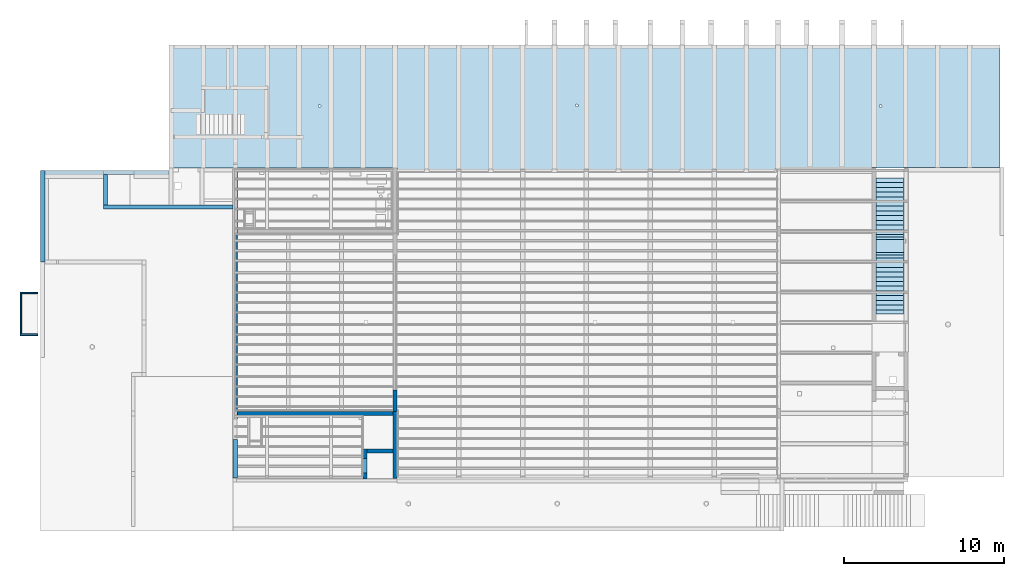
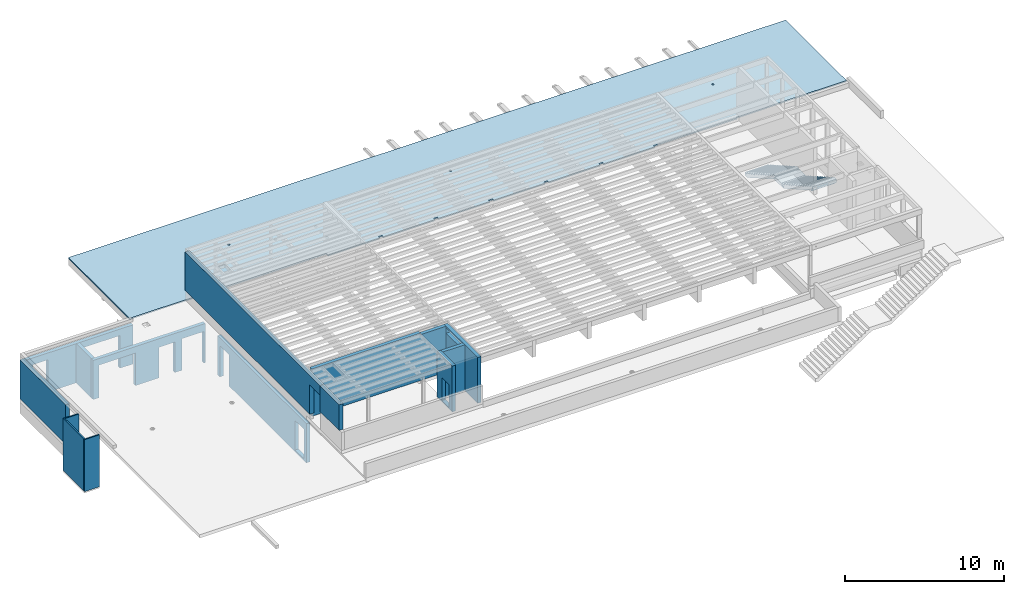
# One storey, part 10 of 14: 15 walls, 3 slabs, 24 openings.
"""IFC2X3 building model written with IfcOpenShell, lengths in metres."""

from ifc_helpers import new_model, entity, si_unit, converted_unit, direction, frame, frame_2d, origin, origin_2d_with_axis, place, context, subcontext, project, spatial, polyline, rectangle, circle, outline, extrude, clip, bounded_halfspace, material, layer, layer_set, layer_usage, type_object, element, save


model = new_model("IFC2X3")

# Units and contexts
model_context = context("Model", 3, precision=1e-05, world=frame((30.086303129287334, 2.687674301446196, 462.0)), true_north=direction((0.19008937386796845, 0.9817667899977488)))
body_context = subcontext(model_context, "Body", "Model", "MODEL_VIEW")
ifc_project = project(units=[si_unit("LENGTHUNIT", "METRE"), si_unit("AREAUNIT", "SQUARE_METRE"), converted_unit("PLANEANGLEUNIT", "DEGREE", entity("IfcPlaneAngleMeasure", 0.017453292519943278), si_unit("PLANEANGLEUNIT", "RADIAN"), dimensions=[0, 0, 0, 0, 0, 0, 0]), si_unit("VOLUMEUNIT", "CUBIC_METRE")], contexts=[model_context])

# Site, building, storey
site_placement = place(None, origin())
site = spatial("IfcSite", under=ifc_project, at=site_placement, Name="Default", CompositionType="ELEMENT")
building_placement = place(site_placement, origin())
building = spatial("IfcBuilding", under=site, at=building_placement, CompositionType="ELEMENT")
storey_placement = place(building_placement, origin())
storey = spatial("IfcBuildingStorey", under=building, at=storey_placement, Name="FB_E00_OKFB", CompositionType="ELEMENT", Elevation=0.0)

# Slab, openings
ifc_material_1 = material(Name="WS_CONCRETE_REINFORCED")
ifc_layer_1 = layer(ifc_material_1, 0.24999999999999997)
ifc_layer_set_1 = layer_set([ifc_layer_1], Name="Geschossdecke:WS_SLB_CON_250")
ifc_layer_usage_1 = layer_usage(ifc_layer_set_1, "AXIS3", "POSITIVE", 0.0)
slab_type_1 = type_object("IfcSlabType", Name="Geschossdecke:WS_SLB_CON_250", PredefinedType="FLOOR", material=ifc_layer_set_1)
slab_1_placement = place(storey_placement, frame((90.23033735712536, -6.602648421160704, 1.8349999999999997)))
slab_1 = element("IfcSlab", 1, at=slab_1_placement, inside=storey, type_object=slab_type_1, material=ifc_layer_usage_1, Name="Geschossdecke:WS_SLB_CON_250", ObjectType="Geschossdecke:WS_SLB_CON_250", PredefinedType="FLOOR", context=body_context, shape_type="SweptSolid", body=[
    extrude(rectangle(XDim=1.1100000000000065, YDim=1.750001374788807, at=frame_2d((0.0, 0.0), x_axis=(0.0, -1.0))), frame((0.8750006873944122, 0.5550000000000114, 0.25), z_axis=(0.0, 0.0, -1.0), x_axis=(-1.0, 0.0, 0.0)), (0.0, 0.0, 1.0), 0.25),
])
opening_1_placement = place(slab_1_placement, origin())
element("IfcOpeningElement", 2, at=opening_1_placement, cuts=slab_1, Name="Geschossdecke:WS_SLB_CON_250", ObjectType="Opening", context=body_context, shape_type="SweptSolid", body=[
    extrude(rectangle(XDim=0.13999999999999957, YDim=1.7500013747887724, at=frame_2d((-5.412337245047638e-16, 8.659739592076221e-15), x_axis=(1.0, 0.0))), frame((0.8750006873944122, 0.07000000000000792, 0.12999999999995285), z_axis=(0.0, 0.0, 1.0), x_axis=(0.0, 1.0, 0.0)), (0.0, 0.0, 1.0), 0.1200000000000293),
])
opening_2_placement = place(slab_1_placement, origin())
element("IfcOpeningElement", 3, at=opening_2_placement, cuts=slab_1, Name="Geschossdecke:WS_SLB_CON_250", ObjectType="Opening", context=body_context, shape_type="SweptSolid", body=[
    extrude(rectangle(XDim=0.13999999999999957, YDim=1.7500013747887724, at=frame_2d((5.412337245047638e-16, 8.659739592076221e-15), x_axis=(1.0, 0.0))), frame((0.8750006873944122, 1.040000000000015, 0.12999999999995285), z_axis=(0.0, 0.0, 1.0), x_axis=(0.0, 1.0, 0.0)), (0.0, 0.0, 1.0), 0.1200000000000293),
])

ifc_material_2 = material(Name="WS_TIMBER_GLT_0°")
ifc_layer_2 = layer(ifc_material_2, 0.1)
ifc_layer_set_2 = layer_set([ifc_layer_2], Name="Geschossdecke:WS_SLB_TIM_100")
ifc_layer_usage_2 = layer_usage(ifc_layer_set_2, "AXIS3", "POSITIVE", 0.0)
slab_type_2 = type_object("IfcSlabType", Name="Geschossdecke:WS_SLB_TIM_100", PredefinedType="FLOOR", material=ifc_layer_set_2)
slab_2_placement = place(storey_placement, frame((45.95533862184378, -1.3946477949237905, 3.9349999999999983)))
slab_2 = element("IfcSlab", 4, at=slab_2_placement, inside=storey, type_object=slab_type_2, material=ifc_layer_usage_2, Name="Geschossdecke:WS_SLB_TIM_100", ObjectType="Geschossdecke:WS_SLB_TIM_100", PredefinedType="FLOOR", context=body_context, shape_type="SweptSolid", body=[
    extrude(outline(polyline([(-26.02499964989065, 3.9624998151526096), (-26.02499964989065, -3.697507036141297), (-20.25000046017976, -3.697507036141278), (-20.25000046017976, -3.7225070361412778), (-17.999999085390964, -3.72250703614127), (-17.999999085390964, -3.8024598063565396), (-11.945000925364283, -3.8025128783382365), (-11.945000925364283, -3.9624998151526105), (-8.265000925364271, -3.9624998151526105), (-8.265000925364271, -3.802455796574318), (-7.9850009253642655, -3.802455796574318), (-7.9850009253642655, -3.9624543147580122), (-4.265000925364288, -3.9624543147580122), (-4.265000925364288, -3.802455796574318), (-3.9850009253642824, -3.802455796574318), (-3.9850009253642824, -3.9624543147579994), (-0.2650009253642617, -3.9624543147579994), (-0.2650009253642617, -3.802455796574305), (0.014999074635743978, -3.802455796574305), (0.014999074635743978, -3.9624543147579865), (3.7349990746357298, -3.9624543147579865), (3.7349990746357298, -3.802455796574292), (4.014999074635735, -3.802455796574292), (4.014999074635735, -3.962454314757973), (7.734999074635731, -3.962454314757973), (7.734999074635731, -3.802455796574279), (8.014999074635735, -3.802455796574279), (8.014999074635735, -3.9624543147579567), (11.750000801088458, -3.9624543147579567), (11.750000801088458, -3.7374998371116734), (26.024999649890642, -3.7374998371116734), (26.024999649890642, 3.9624998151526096), (-26.02499964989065, 3.9624998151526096)])), frame((26.024999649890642, 3.9624998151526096, 0.10000000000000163), z_axis=(0.0, 0.0, -1.0), x_axis=(-1.0, 0.0, 0.0)), (0.0, 0.0, 1.0), 0.1),
])
opening_3_placement = place(slab_2_placement, origin())
element("IfcOpeningElement", 5, at=opening_3_placement, cuts=slab_2, Name="Geschossdecke:WS_SLB_TIM_100", ObjectType="Opening", context=body_context, shape_type="SweptSolid", body=[
    extrude(circle(Radius=0.08, at=frame_2d((1.0609038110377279e-30, -1.7325874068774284e-14), x_axis=(1.0, 0.0))), frame((9.435058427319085, 4.107658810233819, 0.0), z_axis=(0.0, 0.0, 1.0), x_axis=(0.0, 1.0, 0.0)), (0.0, 0.0, 1.0), 0.1),
])
opening_4_placement = place(slab_2_placement, origin())
element("IfcOpeningElement", 6, at=opening_4_placement, cuts=slab_2, Name="Geschossdecke:WS_SLB_TIM_100", ObjectType="Opening", context=body_context, shape_type="SweptSolid", body=[
    extrude(circle(Radius=0.08, at=frame_2d((1.0609038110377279e-30, -1.7325874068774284e-14), x_axis=(1.0, 0.0))), frame((25.542080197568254, 4.147310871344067, 0.0), z_axis=(0.0, 0.0, 1.0), x_axis=(0.0, 1.0, 0.0)), (0.0, 0.0, 1.0), 0.1),
])
opening_5_placement = place(slab_2_placement, origin())
element("IfcOpeningElement", 7, at=opening_5_placement, cuts=slab_2, Name="Geschossdecke:WS_SLB_TIM_100", ObjectType="Opening", context=body_context, shape_type="SweptSolid", body=[
    extrude(circle(Radius=0.08, at=frame_2d((2.1218076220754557e-30, -3.465174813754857e-14), x_axis=(1.0, 0.0))), frame((44.56615440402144, 4.107650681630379, 0.0), z_axis=(0.0, 0.0, 1.0), x_axis=(0.0, 1.0, 0.0)), (0.0, 0.0, 1.0), 0.1),
])

# Slab
ifc_material_3 = material(Name="WS_CONCRETE_REINFORCED_PRECAST")
slab_type_3 = type_object("IfcSlabType", Name="Foyertreppe:Foyertreppe", PredefinedType="FLOOR", material=ifc_material_3)
slab_3_placement = place(storey_placement, origin())
element("IfcSlab", 8, at=slab_3_placement, inside=storey, type_object=slab_type_3, Name="Foyertreppe:Foyertreppe", ObjectType="Foyertreppe:Foyertreppe", PredefinedType="FLOOR", context=body_context, shape_type="SweptSolid", body=[
    extrude(outline(polyline([(-1.011980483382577, -1.8548969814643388), (-0.8439804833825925, -1.8548969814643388), (-0.8439804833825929, -1.7148969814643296), (-0.690585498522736, -1.7148969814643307), (1.241019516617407, 1.6769094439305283), (1.241019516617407, 1.980103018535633), (1.0040195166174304, 1.980103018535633), (1.00401951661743, 1.685103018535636), (0.8360195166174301, 1.685103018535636), (0.8360195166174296, 1.3901030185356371), (0.6680195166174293, 1.3901030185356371), (0.6680195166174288, 1.0951030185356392), (0.500019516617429, 1.0951030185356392), (0.5000195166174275, 0.8001030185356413), (0.33201951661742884, 0.8001030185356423), (0.3320195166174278, 0.5051030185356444), (0.1640195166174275, 0.5051030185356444), (0.16401951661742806, 0.2101030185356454), (-0.0039804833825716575, 0.21010301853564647), (-0.00398048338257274, -0.08489698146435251), (-0.17198048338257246, -0.08489698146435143), (-0.17198048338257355, -0.3798969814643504), (-0.33998048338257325, -0.37989698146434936), (-0.3399804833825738, -0.6748969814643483), (-0.5079804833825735, -0.6748969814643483), (-0.5079804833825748, -0.9698969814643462), (-0.6759804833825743, -0.9698969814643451), (-0.6759804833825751, -1.2648969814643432), (-0.843980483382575, -1.2648969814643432), (-0.8439804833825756, -1.559896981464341), (-1.0119804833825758, -1.559896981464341), (-1.011980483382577, -1.8548969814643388)])), frame((90.24533735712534, -3.767751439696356, 1.1310195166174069), z_axis=(1.0, 0.0, 0.0), x_axis=(0.0, 0.0, -1.0)), (0.0, 0.0, 1.0), 1.7200013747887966),
    extrude(outline(polyline([(1.7278423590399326, -1.2440588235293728), (1.7977057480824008, -1.2440588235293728), (1.7977057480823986, -1.1040588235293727), (1.937705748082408, -1.1040588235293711), (1.9377057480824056, -0.9360588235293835), (1.6107057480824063, -0.9360588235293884), (1.6107057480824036, -0.7685588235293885), (1.3157057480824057, -0.7685588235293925), (1.3157057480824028, -0.6010588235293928), (1.0207057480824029, -0.6010588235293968), (1.0207057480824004, -0.4335588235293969), (0.7257057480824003, -0.4335588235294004), (0.7257057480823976, -0.2660588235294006), (0.4307057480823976, -0.2660588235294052), (0.43070574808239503, -0.09855882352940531), (0.13570574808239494, -0.09855882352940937), (0.13570574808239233, 0.06894117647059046), (-0.15929425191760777, 0.06894117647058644), (-0.15929425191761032, 0.23644117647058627), (-0.4542942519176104, 0.23644117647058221), (-0.454294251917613, 0.40394117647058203), (-0.749294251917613, 0.403941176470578), (-0.7492942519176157, 0.5714411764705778), (-1.0442942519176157, 0.5714411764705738), (-1.0442942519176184, 0.7389411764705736), (-1.3392942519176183, 0.7389411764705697), (-1.339294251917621, 0.9064411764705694), (-1.6342942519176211, 0.906441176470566), (-1.6342942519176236, 1.0739411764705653), (-1.894294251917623, 1.0739411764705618), (-1.894294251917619, 0.7959411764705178), (-1.7542942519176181, 0.7959411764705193), (-1.7542942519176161, 0.6559411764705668), (-1.618426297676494, 0.6559411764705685), (1.7278423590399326, -1.2440588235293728)])), frame((90.24533735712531, -8.410354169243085, 3.0790588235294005), z_axis=(1.0, 0.0, 0.0), x_axis=(0.0, 1.0, 0.0)), (0.0, 0.0, 1.0), 1.7200013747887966),
])

# Wall, openings
ifc_layer_3 = layer(ifc_material_1, 0.24999999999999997)
ifc_layer_set_3 = layer_set([ifc_layer_3], Name="Basiswand:WS_WAL_CON_250")
ifc_layer_usage_3 = layer_usage(ifc_layer_set_3, "AXIS2", "NEGATIVE", 0.12499999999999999)
wall_type_1 = type_object("IfcWallType", Name="Basiswand:WS_WAL_CON_250", PredefinedType="STANDARD", material=ifc_layer_set_3)
wall_1_placement = place(storey_placement, frame((49.98033743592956, -3.5946084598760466, 0.7799999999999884), z_axis=(0.0, 0.0, 1.0), x_axis=(-1.0, 0.0, 0.0)))
wall_1 = element("IfcWallStandardCase", 9, at=wall_1_placement, inside=storey, type_object=wall_type_1, material=ifc_layer_usage_3, Name="Basiswand:WS_WAL_CON_250", ObjectType="Basiswand:WS_WAL_CON_250", context=body_context, shape_type="SweptSolid", body=[
    extrude(rectangle(XDim=8.139991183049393, YDim=0.25, at=frame_2d((4.069995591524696, -4.0245584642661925e-16), x_axis=(1.0, 0.0))), origin(), (0.0, 0.0, 1.0), 3.005000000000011),
])
opening_6_placement = place(wall_1_placement, frame((49.98033743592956, -3.5946084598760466, -0.7799999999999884), z_axis=(0.0, 0.0, 1.0), x_axis=(-1.0, 0.0, 0.0)))
element("IfcOpeningElement", 10, at=opening_6_placement, cuts=wall_1, Name="Basiswand:WS_WAL_CON_250", ObjectType="Opening", context=body_context, shape_type="SweptSolid", body=[
    extrude(rectangle(XDim=2.4999999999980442, YDim=2.660000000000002, at=frame_2d((0.0, 2.220446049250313e-16), x_axis=(0.0, 1.0))), frame((43.58034625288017, -1.9456084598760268, 2.029999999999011), z_axis=(0.0, -1.0, 0.0), x_axis=(1.0, 0.0, 0.0)), (0.0, 0.0, 1.0), 3.048),
])
opening_7_placement = place(wall_1_placement, frame((49.98033743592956, -3.5946084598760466, -0.7799999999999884), z_axis=(0.0, 0.0, 1.0), x_axis=(-1.0, 0.0, 0.0)))
element("IfcOpeningElement", 11, at=opening_7_placement, cuts=wall_1, Name="Basiswand:WS_WAL_CON_250", ObjectType="Opening", context=body_context, shape_type="SweptSolid", body=[
    extrude(rectangle(XDim=2.339999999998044, YDim=1.1400000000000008, at=frame_2d((0.0, -1.1102230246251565e-16), x_axis=(0.0, 1.0))), frame((47.195337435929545, -1.9456084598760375, 1.949999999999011), z_axis=(0.0, -1.0, 0.0), x_axis=(1.0, 0.0, 0.0)), (0.0, 0.0, 1.0), 3.048),
])
opening_8_placement = place(wall_1_placement, frame((49.98033743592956, -3.5946084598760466, -4.580000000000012), z_axis=(0.0, 0.0, 1.0), x_axis=(-1.0, 0.0, 0.0)))
element("IfcOpeningElement", 12, at=opening_8_placement, cuts=wall_1, Name="Basiswand:WS_WAL_CON_250", ObjectType="Opening", context=body_context, shape_type="SweptSolid", body=[
    extrude(rectangle(XDim=2.419999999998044, YDim=1.6, at=frame_2d((0.0, 0.0), x_axis=(0.0, 1.0))), frame((49.08033743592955, -1.9456084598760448, 5.7900000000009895), z_axis=(0.0, -1.0, 0.0), x_axis=(1.0, 0.0, 0.0)), (0.0, 0.0, 1.0), 3.048),
])

# Walls
ifc_layer_usage_4 = layer_usage(ifc_layer_set_3, "AXIS2", "NEGATIVE", 0.12499999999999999)
wall_2_placement = place(storey_placement, frame((41.96534625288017, -3.469608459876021, 0.7799999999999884), z_axis=(0.0, 0.0, 1.0), x_axis=(0.0, 1.0, 0.0)))
element("IfcWallStandardCase", 13, at=wall_2_placement, inside=storey, type_object=wall_type_1, material=ifc_layer_usage_4, Name="Basiswand:WS_WAL_CON_250", ObjectType="Basiswand:WS_WAL_CON_250", context=body_context, shape_type="SweptSolid", body=[
    extrude(rectangle(XDim=1.889960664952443, YDim=0.24999999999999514, at=frame_2d((0.9449803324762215, 0.0), x_axis=(-1.0, 0.0))), origin(), (0.0, 0.0, 1.0), 3.005000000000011),
])
ifc_layer_usage_5 = layer_usage(ifc_layer_set_3, "AXIS2", "NEGATIVE", 0.12499999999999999)
wall_3_placement = place(storey_placement, frame((59.98033735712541, -16.534648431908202, 4.4), z_axis=(0.0, 0.0, 1.0), x_axis=(-1.0, 0.0, 0.0)))
element("IfcWallStandardCase", 14, at=wall_3_placement, inside=storey, type_object=wall_type_1, material=ifc_layer_usage_5, Name="Basiswand:WS_WAL_CON_250", ObjectType="Basiswand:WS_WAL_CON_250", context=body_context, shape_type="Clipping", body=[
    clip(clip(extrude(rectangle(XDim=9.735000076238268, YDim=0.24999999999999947, at=frame_2d((4.867500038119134, 4.926614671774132e-16), x_axis=(-1.0, 0.0))), origin(), (0.0, 0.0, 1.0), 3.6399999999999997), bounded_halfspace(frame((1.85999993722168, -0.12499999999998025, 3.515000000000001), z_axis=(0.0, 0.0, -1.0), x_axis=(0.0, 1.0, 0.0)), True, frame((1.85999993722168, -0.12499999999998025, 3.515000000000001), z_axis=(0.0, 0.0, -1.0), x_axis=(0.0, 1.0, 0.0)), polyline([(0.0, 0.0), (0.0, -1.8599999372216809), (0.24999999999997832, -1.859999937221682), (0.24999999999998, 0.0), (0.0, 0.0)]))), bounded_halfspace(frame((1.8599999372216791, 0.12499999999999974, 3.515000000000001), z_axis=(1.0, 0.0, 0.0), x_axis=(0.0, 0.0, 1.0)), True, frame((1.8599999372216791, 0.12499999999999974, 3.515000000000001), z_axis=(1.0, 0.0, 0.0), x_axis=(0.0, 0.0, 1.0)), polyline([(0.0, 0.0), (0.03809999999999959, 0.0), (0.03809999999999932, 0.07619999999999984), (0.0, 0.07619999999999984), (0.0, 0.0)]))),
])
ifc_layer_usage_6 = layer_usage(ifc_layer_set_3, "AXIS2", "NEGATIVE", 0.12499999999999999)
wall_4_placement = place(storey_placement, frame((60.105337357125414, -15.069648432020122, 4.1499999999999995), z_axis=(0.0, 0.0, 1.0), x_axis=(0.0, -1.0, 0.0)))
element("IfcWallStandardCase", 15, at=wall_4_placement, inside=storey, type_object=wall_type_1, material=ifc_layer_usage_6, Name="Basiswand:WS_WAL_CON_250", ObjectType="Basiswand:WS_WAL_CON_250", context=body_context, shape_type="SweptSolid", body=[
    extrude(rectangle(XDim=1.3399999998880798, YDim=0.24999999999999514, at=frame_2d((0.6699999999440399, 1.0755285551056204e-15), x_axis=(-1.0, 0.0))), origin(), (0.0, 0.0, 1.0), 2.83),
])

# Wall, opening
ifc_layer_usage_7 = layer_usage(ifc_layer_set_3, "AXIS2", "NEGATIVE", 0.12499999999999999)
wall_5_placement = place(storey_placement, frame((58.24533741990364, -18.75464898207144, 4.3999999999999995), z_axis=(0.0, 0.0, 1.0), x_axis=(0.0, -1.0, 0.0)))
wall_5 = element("IfcWallStandardCase", 16, at=wall_5_placement, inside=storey, type_object=wall_type_1, material=ifc_layer_usage_7, Name="Basiswand:WS_WAL_CON_250", ObjectType="Basiswand:WS_WAL_CON_250", context=body_context, shape_type="SweptSolid", body=[
    extrude(rectangle(XDim=1.8849109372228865, YDim=0.25000000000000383, at=frame_2d((0.9424554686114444, -2.282896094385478e-15), x_axis=(-1.0, 0.0))), origin(), (0.0, 0.0, 1.0), 3.515),
])
opening_9_placement = place(wall_5_placement, origin())
element("IfcOpeningElement", 17, at=opening_9_placement, cuts=wall_5, Name="Basiswand:WS_WAL_CON_250", ObjectType="Opening", context=body_context, shape_type="SweptSolid", body=[
    extrude(rectangle(XDim=1.7499999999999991, YDim=0.899999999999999, at=frame_2d((2.7755575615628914e-16, 0.0), x_axis=(1.0, 0.0))), frame((1.0599999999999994, -0.12499999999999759, 0.9749999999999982), z_axis=(0.0, 1.0, 0.0), x_axis=(0.0, 0.0, -1.0)), (0.0, 0.0, 1.0), 0.24999999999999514),
])

ifc_layer_usage_8 = layer_usage(ifc_layer_set_3, "AXIS2", "NEGATIVE", 0.12499999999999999)
wall_6_placement = place(storey_placement, frame((60.105337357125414, -16.409648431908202, 4.4), z_axis=(0.0, 0.0, 1.0), x_axis=(0.0, -1.0, 0.0)))
wall_6 = element("IfcWallStandardCase", 18, at=wall_6_placement, inside=storey, type_object=wall_type_1, material=ifc_layer_usage_8, Name="Basiswand:WS_WAL_CON_250", ObjectType="Basiswand:WS_WAL_CON_250", context=body_context, shape_type="SweptSolid", body=[
    extrude(rectangle(XDim=4.2149114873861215, YDim=0.2500000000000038, at=frame_2d((2.1074557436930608, -4.253541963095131e-15), x_axis=(-1.0, 0.0))), origin(), (0.0, 0.0, 1.0), 3.515),
])
opening_10_placement = place(wall_6_placement, origin())
element("IfcOpeningElement", 19, at=opening_10_placement, cuts=wall_6, Name="Basiswand:WS_WAL_CON_250", ObjectType="Opening", context=body_context, shape_type="SweptSolid", body=[
    extrude(rectangle(XDim=0.39999999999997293, YDim=2.094999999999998, at=frame_2d((5.412337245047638e-16, 0.0), x_axis=(1.0, 0.0))), frame((1.297499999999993, -0.12499999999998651, 3.1800000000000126), z_axis=(0.0, 1.0, 0.0), x_axis=(0.0, 0.0, -1.0)), (0.0, 0.0, 1.0), 0.24999999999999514),
])

# Wall, openings
ifc_layer_usage_9 = layer_usage(ifc_layer_set_3, "AXIS2", "POSITIVE", -0.12499999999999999)
wall_7_placement = place(storey_placement, frame((50.105337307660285, -16.409648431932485, 0.7799999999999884), z_axis=(0.0, 0.0, 1.0), x_axis=(0.0, 1.0, 0.0)))
wall_7 = element("IfcWallStandardCase", 20, at=wall_7_placement, inside=storey, type_object=wall_type_1, material=ifc_layer_usage_9, Name="Basiswand:WS_WAL_CON_250", ObjectType="Basiswand:WS_WAL_CON_250", context=body_context, shape_type="SweptSolid", body=[
    extrude(rectangle(XDim=11.149999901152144, YDim=0.25000000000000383, at=frame_2d((5.57499995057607, -1.915134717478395e-15), x_axis=(1.0, 0.0))), origin(), (0.0, 0.0, 1.0), 3.005000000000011),
])
opening_11_placement = place(wall_7_placement, origin())
element("IfcOpeningElement", 21, at=opening_11_placement, cuts=wall_7, Name="Basiswand:WS_WAL_CON_250", ObjectType="Opening", context=body_context, shape_type="SweptSolid", body=[
    extrude(rectangle(XDim=0.8799999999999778, YDim=0.899999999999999, at=frame_2d((8.326672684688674e-17, 0.0), x_axis=(1.0, 0.0))), frame((-6.59434350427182, -0.12500004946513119, -0.46000000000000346), z_axis=(0.0, 1.0, 0.0), x_axis=(0.0, 0.0, -1.0)), (0.0, 0.0, 1.0), 0.24999999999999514),
])
opening_12_placement = place(wall_7_placement, origin())
element("IfcOpeningElement", 22, at=opening_12_placement, cuts=wall_7, Name="Basiswand:WS_WAL_CON_250", ObjectType="Opening", context=body_context, shape_type="SweptSolid", body=[
    extrude(rectangle(XDim=0.879999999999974, YDim=0.7000000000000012, at=origin_2d_with_axis()), frame((-5.644344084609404, -0.12500004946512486, -0.46000000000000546), z_axis=(0.0, 1.0, 0.0), x_axis=(0.0, 0.0, -1.0)), (0.0, 0.0, 1.0), 0.24999999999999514),
])
opening_13_placement = place(wall_7_placement, origin())
element("IfcOpeningElement", 23, at=opening_13_placement, cuts=wall_7, Name="Basiswand:WS_WAL_CON_250", ObjectType="Opening", context=body_context, shape_type="SweptSolid", body=[
    extrude(rectangle(XDim=0.8799999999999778, YDim=0.899999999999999, at=frame_2d((8.326672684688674e-17, 0.0), x_axis=(1.0, 0.0))), frame((-4.694344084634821, -0.12500004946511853, -0.46000000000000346), z_axis=(0.0, 1.0, 0.0), x_axis=(0.0, 0.0, -1.0)), (0.0, 0.0, 1.0), 0.24999999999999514),
])
opening_14_placement = place(wall_7_placement, origin())
element("IfcOpeningElement", 24, at=opening_14_placement, cuts=wall_7, Name="Basiswand:WS_WAL_CON_250", ObjectType="Opening", context=body_context, shape_type="SweptSolid", body=[
    extrude(rectangle(XDim=0.8799999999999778, YDim=0.899999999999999, at=frame_2d((5.551115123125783e-17, 0.0), x_axis=(1.0, 0.0))), frame((-3.1843435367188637, -0.1250000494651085, -0.45999999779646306), z_axis=(0.0, 1.0, 0.0), x_axis=(0.0, 0.0, -1.0)), (0.0, 0.0, 1.0), 0.24999999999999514),
])
opening_15_placement = place(wall_7_placement, origin())
element("IfcOpeningElement", 25, at=opening_15_placement, cuts=wall_7, Name="Basiswand:WS_WAL_CON_250", ObjectType="Opening", context=body_context, shape_type="SweptSolid", body=[
    extrude(rectangle(XDim=0.8799999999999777, YDim=0.7999999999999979, at=frame_2d((0.0, -1.0824674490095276e-15), x_axis=(1.0, 0.0))), frame((-1.9743435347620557, -0.12500004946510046, -0.4599999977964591), z_axis=(0.0, 1.0, 0.0), x_axis=(0.0, 0.0, -1.0)), (0.0, 0.0, 1.0), 0.24999999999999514),
])
opening_16_placement = place(wall_7_placement, origin())
element("IfcOpeningElement", 26, at=opening_16_placement, cuts=wall_7, Name="Basiswand:WS_WAL_CON_250", ObjectType="Opening", context=body_context, shape_type="SweptSolid", body=[
    extrude(rectangle(XDim=0.8799999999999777, YDim=0.7999999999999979, at=frame_2d((0.0, -1.0824674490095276e-15), x_axis=(1.0, 0.0))), frame((-0.9093435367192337, -0.12500004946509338, -0.45999999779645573), z_axis=(0.0, 1.0, 0.0), x_axis=(0.0, 0.0, -1.0)), (0.0, 0.0, 1.0), 0.24999999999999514),
])
opening_17_placement = place(wall_7_placement, origin())
element("IfcOpeningElement", 27, at=opening_17_placement, cuts=wall_7, Name="Basiswand:WS_WAL_CON_250", ObjectType="Opening", context=body_context, shape_type="SweptSolid", body=[
    extrude(rectangle(XDim=0.8000000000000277, YDim=0.3000000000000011, at=frame_2d((2.7755575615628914e-16, 2.1649348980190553e-15), x_axis=(1.0, 0.0))), frame((-7.055006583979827, -0.12500004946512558, 2.6049999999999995), z_axis=(0.0, 1.0, 0.0), x_axis=(0.0, 0.0, -1.0)), (0.0, 0.0, 1.0), 0.24999999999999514),
])
opening_18_placement = place(wall_7_placement, origin())
element("IfcOpeningElement", 28, at=opening_18_placement, cuts=wall_7, Name="Basiswand:WS_WAL_CON_250", ObjectType="Opening", context=body_context, shape_type="SweptSolid", body=[
    extrude(rectangle(XDim=0.2, YDim=0.6993435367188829, at=frame_2d((2.706168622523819e-16, 2.1649348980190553e-15), x_axis=(1.0, 0.0))), frame((-0.5996717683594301, -0.12500004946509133, 2.9050000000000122), z_axis=(0.0, 1.0, 0.0), x_axis=(0.0, 0.0, -1.0)), (0.0, 0.0, 1.0), 0.24999999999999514),
])
opening_19_placement = place(wall_7_placement, frame((16.409648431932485, 50.105337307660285, -0.7799999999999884), z_axis=(0.0, 0.0, 1.0), x_axis=(0.0, -1.0, 0.0)))
element("IfcOpeningElement", 29, at=opening_19_placement, cuts=wall_7, Name="Basiswand:WS_WAL_CON_250", ObjectType="Opening", context=body_context, shape_type="SweptSolid", body=[
    extrude(rectangle(XDim=2.384999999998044, YDim=1.1449999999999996, at=frame_2d((-1.1102230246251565e-16, 0.0), x_axis=(1.0, 0.0))), frame((51.50433730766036, -6.10964849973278, 1.9725000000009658), z_axis=(-1.0, 0.0, 0.0), x_axis=(0.0, 0.0, 1.0)), (0.0, 0.0, 1.0), 3.048),
])
opening_20_placement = place(wall_7_placement, frame((16.409648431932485, 50.105337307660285, -4.580000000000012), z_axis=(0.0, 0.0, 1.0), x_axis=(0.0, -1.0, 0.0)))
element("IfcOpeningElement", 30, at=opening_20_placement, cuts=wall_7, Name="Basiswand:WS_WAL_CON_250", ObjectType="Opening", context=body_context, shape_type="SweptSolid", body=[
    extrude(rectangle(XDim=2.264999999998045, YDim=1.1449999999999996, at=frame_2d((0.0, 0.0), x_axis=(0.0, 1.0))), frame((51.75433730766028, -15.559648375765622, 5.832499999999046), z_axis=(-1.0, 0.0, 0.0), x_axis=(0.0, -1.0, 0.0)), (0.0, 0.0, 1.0), 3.048),
])

# Wall
ifc_layer_usage_10 = layer_usage(ifc_layer_set_3, "AXIS2", "NEGATIVE", 0.12499999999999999)
wall_8_placement = place(storey_placement, frame((59.98033735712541, -18.879648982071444, 4.3999999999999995), z_axis=(0.0, 0.0, 1.0), x_axis=(-1.0, 0.0, 0.0)))
element("IfcWallStandardCase", 31, at=wall_8_placement, inside=storey, type_object=wall_type_1, material=ifc_layer_usage_10, Name="Basiswand:WS_WAL_CON_250", ObjectType="Basiswand:WS_WAL_CON_250", context=body_context, shape_type="Clipping", body=[
    clip(extrude(rectangle(XDim=1.6099999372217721, YDim=0.2499999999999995, at=frame_2d((0.8049999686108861, -1.5265566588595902e-16), x_axis=(-1.0, 0.0))), origin(), (0.0, 0.0, 1.0), 3.5150000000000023), bounded_halfspace(frame((0.0, -0.12499999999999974, 3.5150000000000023), z_axis=(0.0, 0.0, -1.0), x_axis=(0.0, 1.0, 0.0)), True, frame((0.0, -0.12499999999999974, 3.5150000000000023)), polyline([(0.0, 0.0), (1.6099999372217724, 0.0), (1.6099999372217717, 0.24999999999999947), (0.0, 0.24999999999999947), (0.0, 0.0)]))),
])

# Wall, openings
ifc_layer_usage_11 = layer_usage(ifc_layer_set_3, "AXIS2", "POSITIVE", -0.12499999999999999)
wall_9_placement = place(storey_placement, frame((38.20533792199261, -1.4546477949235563, 0.7799999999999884)))
wall_9 = element("IfcWallStandardCase", 32, at=wall_9_placement, inside=storey, type_object=wall_type_1, material=ifc_layer_usage_11, Name="Basiswand:WS_WAL_CON_250", ObjectType="Basiswand:WS_WAL_CON_250", context=body_context, shape_type="SweptSolid", body=[
    extrude(rectangle(XDim=7.750001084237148, YDim=0.25, at=frame_2d((3.875000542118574, -4.85722573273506e-17), x_axis=(-1.0, 0.0))), origin(), (0.0, 0.0, 1.0), 3.005000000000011),
])
opening_21_placement = place(wall_9_placement, frame((-38.20533792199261, 1.4546477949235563, -0.7799999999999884)))
element("IfcOpeningElement", 33, at=opening_21_placement, cuts=wall_9, Name="Basiswand:WS_WAL_CON_250", ObjectType="Opening", context=body_context, shape_type="SweptSolid", body=[
    extrude(rectangle(XDim=2.514999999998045, YDim=2.9449999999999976, at=frame_2d((1.1102230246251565e-16, 4.3298697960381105e-15), x_axis=(1.0, 0.0))), frame((43.562846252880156, -2.8536477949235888, 2.037499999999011), z_axis=(0.0, 1.0, 0.0), x_axis=(0.0, 0.0, 1.0)), (0.0, 0.0, 1.0), 3.048),
])
opening_22_placement = place(wall_9_placement, frame((-38.20533792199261, 1.4546477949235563, -0.7799999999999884)))
element("IfcOpeningElement", 34, at=opening_22_placement, cuts=wall_9, Name="Basiswand:WS_WAL_CON_250", ObjectType="Opening", context=body_context, shape_type="SweptSolid", body=[
    extrude(rectangle(XDim=2.0699999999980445, YDim=1.1000000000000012, at=frame_2d((-1.1102230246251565e-16, -4.3298697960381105e-15), x_axis=(1.0, 0.0))), frame((39.259665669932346, -2.853647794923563, 2.234999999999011), z_axis=(0.0, 1.0, 0.0), x_axis=(0.0, 0.0, 1.0)), (0.0, 0.0, 1.0), 3.048),
])

# Walls
ifc_layer_4 = layer(ifc_material_1, 0.29999999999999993)
ifc_layer_set_4 = layer_set([ifc_layer_4], Name="Basiswand:WS_WAL_CON_300")
ifc_layer_usage_12 = layer_usage(ifc_layer_set_4, "AXIS2", "POSITIVE", -0.14999999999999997)
wall_type_2 = type_object("IfcWallType", Name="Basiswand:WS_WAL_CON_300", PredefinedType="STANDARD", material=ifc_layer_set_4)
wall_10_placement = place(storey_placement, frame((38.05533792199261, -1.3296477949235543, 0.7799999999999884), z_axis=(0.0, 0.0, 1.0), x_axis=(0.0, -1.0, 0.0)))
element("IfcWallStandardCase", 35, at=wall_10_placement, inside=storey, type_object=wall_type_2, material=ifc_layer_usage_12, Name="Basiswand:WS_WAL_CON_300", ObjectType="Basiswand:WS_WAL_CON_300", context=body_context, shape_type="SweptSolid", body=[
    extrude(rectangle(XDim=5.720005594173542, YDim=0.3000000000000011, at=frame_2d((2.860002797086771, 9.71445146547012e-17), x_axis=(-1.0, 0.0))), origin(), (0.0, 0.0, 1.0), 3.005000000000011),
])
ifc_layer_5 = layer(ifc_material_3, 0.1)
ifc_layer_set_5 = layer_set([ifc_layer_5], Name="Basiswand:WS_WAL_CON_100_PC")
ifc_layer_usage_13 = layer_usage(ifc_layer_set_5, "AXIS2", "NEGATIVE", 0.05)
wall_type_3 = type_object("IfcWallType", Name="Basiswand:WS_WAL_CON_100_PC", PredefinedType="STANDARD", material=ifc_layer_set_5)
wall_11_placement = place(storey_placement, frame((37.72533792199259, -11.60964800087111, 0.35999999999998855), z_axis=(0.0, 0.0, 1.0), x_axis=(-1.0, 0.0, 0.0)))
element("IfcWallStandardCase", 36, at=wall_11_placement, inside=storey, type_object=wall_type_3, material=ifc_layer_usage_13, Name="Basiswand:WS_WAL_CON_100_PC", ObjectType="Basiswand:WS_WAL_CON_100_PC", context=body_context, shape_type="SweptSolid", body=[
    extrude(rectangle(XDim=1.1000000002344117, YDim=0.09999999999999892, at=frame_2d((0.5500000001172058, -1.8041124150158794e-16), x_axis=(-1.0, 0.0))), origin(), (0.0, 0.0, 1.0), 3.99000000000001),
])
ifc_layer_usage_14 = layer_usage(ifc_layer_set_5, "AXIS2", "NEGATIVE", 0.05)
wall_12_placement = place(storey_placement, frame((36.675337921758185, -11.559648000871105, 0.35999999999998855), z_axis=(0.0, 0.0, 1.0), x_axis=(0.0, 1.0, 0.0)))
element("IfcWallStandardCase", 37, at=wall_12_placement, inside=storey, type_object=wall_type_3, material=ifc_layer_usage_14, Name="Basiswand:WS_WAL_CON_100_PC", ObjectType="Basiswand:WS_WAL_CON_100_PC", context=body_context, shape_type="SweptSolid", body=[
    extrude(rectangle(XDim=2.6199995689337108, YDim=0.10000000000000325, at=frame_2d((1.3099997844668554, -6.245004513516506e-17), x_axis=(-1.0, 0.0))), origin(), (0.0, 0.0, 1.0), 3.99000000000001),
])
ifc_layer_usage_15 = layer_usage(ifc_layer_set_5, "AXIS2", "NEGATIVE", 0.05)
wall_13_placement = place(storey_placement, frame((36.72533792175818, -8.989648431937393, 0.35999999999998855)))
element("IfcWallStandardCase", 38, at=wall_13_placement, inside=storey, type_object=wall_type_3, material=ifc_layer_usage_15, Name="Basiswand:WS_WAL_CON_100_PC", ObjectType="Basiswand:WS_WAL_CON_100_PC", context=body_context, shape_type="SweptSolid", body=[
    extrude(rectangle(XDim=1.0000000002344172, YDim=0.09999999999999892, at=frame_2d((0.5000000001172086, 1.8388068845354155e-16), x_axis=(-1.0, 0.0))), origin(), (0.0, 0.0, 1.0), 3.99000000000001),
])

# Wall, opening
ifc_material_4 = material(Name="WS_INSULATION_HARD")
ifc_layer_6 = layer(ifc_material_4, 0.28)
ifc_material_5 = material(Name="WS_TIMBER")
ifc_layer_7 = layer(ifc_material_5, 0.015)
ifc_layer_set_6 = layer_set([ifc_layer_6, ifc_layer_7], Name="Basiswand:WS_WAL_TIM_305")
ifc_layer_usage_16 = layer_usage(ifc_layer_set_6, "AXIS2", "POSITIVE", -0.1475)
wall_type_4 = type_object("IfcWallType", Name="Basiswand:WS_WAL_TIM_305", PredefinedType="STANDARD", material=ifc_layer_set_6)
wall_14_placement = place(storey_placement, frame((50.09783728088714, -1.2346022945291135, 4.799999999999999), z_axis=(0.0, 0.0, 1.0), x_axis=(0.0, -1.0, 0.0)))
wall_14 = element("IfcWallStandardCase", 39, at=wall_14_placement, inside=storey, type_object=wall_type_4, material=ifc_layer_usage_16, Name="Basiswand:WS_WAL_TIM_305", ObjectType="Basiswand:WS_WAL_TIM_305", context=body_context, shape_type="SweptSolid", body=[
    extrude(rectangle(XDim=16.922406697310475, YDim=0.29500000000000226, at=frame_2d((8.461203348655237, 0.0), x_axis=(-1.0, 0.0))), origin(), (0.0, 0.0, 1.0), 2.9800000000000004),
])
opening_23_placement = place(wall_14_placement, frame((-1.2346022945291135, -50.09783728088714, -4.799999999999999), z_axis=(0.0, 0.0, 1.0), x_axis=(0.0, 1.0, 0.0)))
element("IfcOpeningElement", 40, at=opening_23_placement, cuts=wall_14, Name="Basiswand:WS_WAL_TIM_305", ObjectType="Opening", context=body_context, shape_type="SweptSolid", body=[
    extrude(rectangle(XDim=2.6599999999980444, YDim=1.2699999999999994, at=frame_2d((-1.1102230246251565e-15, -2.220446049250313e-16), x_axis=(0.0, 1.0))), frame((48.42633728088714, -17.522008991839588, 5.7299999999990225), z_axis=(1.0, 0.0, 0.0), x_axis=(0.0, 1.0, 0.0)), (0.0, 0.0, 1.0), 3.048),
])

ifc_layer_usage_17 = layer_usage(ifc_layer_set_6, "AXIS2", "POSITIVE", -0.1475)
wall_15_placement = place(storey_placement, frame((50.09783728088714, -18.15700899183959, 5.799999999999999), z_axis=(0.0, 0.0, 1.0), x_axis=(0.0, -1.0, 0.0)))
wall_15 = element("IfcWallStandardCase", 41, at=wall_15_placement, inside=storey, type_object=wall_type_4, material=ifc_layer_usage_17, Name="Basiswand:WS_WAL_TIM_305", ObjectType="Basiswand:WS_WAL_TIM_305", context=body_context, shape_type="SweptSolid", body=[
    extrude(rectangle(XDim=2.427588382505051, YDim=0.29500000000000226, at=frame_2d((1.2137941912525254, 0.0), x_axis=(-1.0, 0.0))), origin(), (0.0, 0.0, 1.0), 1.9800000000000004),
])
opening_24_placement = place(wall_15_placement, origin())
element("IfcOpeningElement", 42, at=opening_24_placement, cuts=wall_15, Name="Basiswand:WS_WAL_TIM_305", ObjectType="Opening", context=body_context, shape_type="SweptSolid", body=[
    extrude(rectangle(XDim=2.6599999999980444, YDim=1.2699999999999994, at=frame_2d((-1.1102230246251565e-15, -2.220446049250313e-16), x_axis=(0.0, 1.0))), frame((-0.6350000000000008, -1.671500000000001, -0.07000000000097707), z_axis=(0.0, 1.0, 0.0), x_axis=(-1.0, 0.0, 0.0)), (0.0, 0.0, 1.0), 3.048),
])

save(model, "model.ifc")
